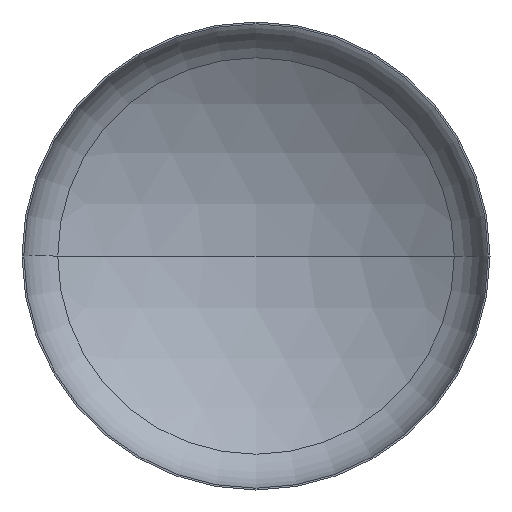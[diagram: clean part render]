
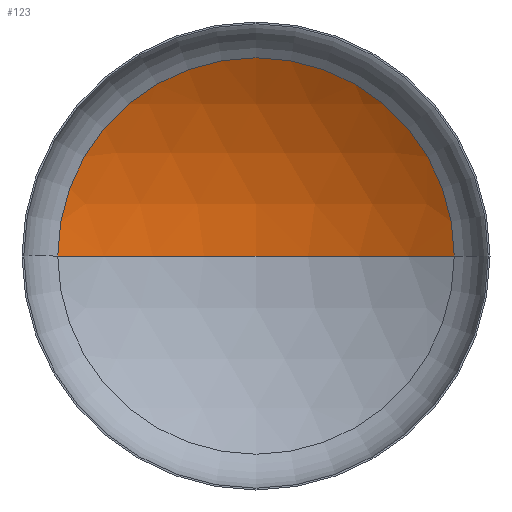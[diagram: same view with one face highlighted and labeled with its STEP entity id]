
A CAD part, front view. The second image highlights one B-rep face of the part: STEP entity #123.
In plain terms, the highlighted spherical face has radius 4800 mm.
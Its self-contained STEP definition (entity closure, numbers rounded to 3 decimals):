
#25 = DIRECTION ( 'NONE',  ( -1., 0., 0. ) ) ;
#28 = DIRECTION ( 'NONE',  ( 0., 0., -1. ) ) ;
#35 = CARTESIAN_POINT ( 'NONE',  ( 0., -3217.084, 0. ) ) ;
#43 = VERTEX_POINT ( 'NONE', #197 ) ;
#55 = AXIS2_PLACEMENT_3D ( 'NONE', #74, #80, #82 ) ;
#74 = CARTESIAN_POINT ( 'NONE',  ( 0., 854.659, 0. ) ) ;
#75 = CIRCLE ( 'NONE', #55, 2541.832 ) ;
#80 = DIRECTION ( 'NONE',  ( 0., -1., 0. ) ) ;
#82 = DIRECTION ( 'NONE',  ( 1., 0., 0. ) ) ;
#91 = VERTEX_POINT ( 'NONE', #312 ) ;
#97 = ORIENTED_EDGE ( 'NONE', *, *, #279, .T. ) ;
#102 = ORIENTED_EDGE ( 'NONE', *, *, #261, .T. ) ;
#109 = EDGE_LOOP ( 'NONE', ( #377, #102, #97 ) ) ;
#123 = ADVANCED_FACE ( 'NONE', ( #353 ), #147, .F. ) ;
#127 = VERTEX_POINT ( 'NONE', #371 ) ;
#147 = SPHERICAL_SURFACE ( 'NONE', #271, 4800. ) ;
#197 = CARTESIAN_POINT ( 'NONE',  ( 2541.832, 854.659, 0. ) ) ;
#204 = CIRCLE ( 'NONE', #344, 4800. ) ;
#245 = EDGE_CURVE ( 'NONE', #127, #91, #204, .T. ) ;
#261 = EDGE_CURVE ( 'NONE', #127, #43, #329, .T. ) ;
#262 = DIRECTION ( 'NONE',  ( 1., 0., 0. ) ) ;
#264 = DIRECTION ( 'NONE',  ( 0., 0., 1. ) ) ;
#265 = CARTESIAN_POINT ( 'NONE',  ( 0., -3217.084, 0. ) ) ;
#271 = AXIS2_PLACEMENT_3D ( 'NONE', #290, #294, #274 ) ;
#274 = DIRECTION ( 'NONE',  ( -1., 0., 0. ) ) ;
#279 = EDGE_CURVE ( 'NONE', #43, #91, #75, .T. ) ;
#290 = CARTESIAN_POINT ( 'NONE',  ( 0., -3217.084, 0. ) ) ;
#294 = DIRECTION ( 'NONE',  ( 0., 0., -1. ) ) ;
#312 = CARTESIAN_POINT ( 'NONE',  ( -2541.832, 854.659, 0. ) ) ;
#329 = CIRCLE ( 'NONE', #404, 4800. ) ;
#344 = AXIS2_PLACEMENT_3D ( 'NONE', #265, #264, #262 ) ;
#353 = FACE_OUTER_BOUND ( 'NONE', #109, .T. ) ;
#371 = CARTESIAN_POINT ( 'NONE',  ( 0., 1582.916, 0. ) ) ;
#377 = ORIENTED_EDGE ( 'NONE', *, *, #245, .F. ) ;
#404 = AXIS2_PLACEMENT_3D ( 'NONE', #35, #28, #25 ) ;
